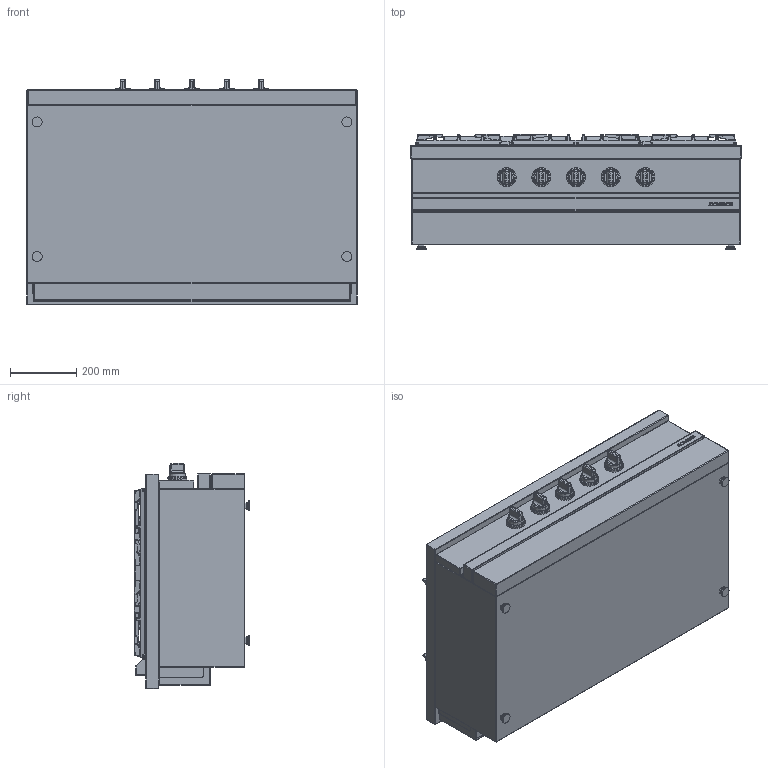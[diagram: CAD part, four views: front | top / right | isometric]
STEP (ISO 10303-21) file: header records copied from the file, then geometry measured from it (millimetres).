
FILE_DESCRIPTION((''),'2;1');
FILE_NAME('CSG1050_EXPORT_STEP_ASM','2017-11-22T',('r.avril'),(''),'PRO/ENGINEER BY PARAMETRIC TECHNOLOGY CORPORATION, 2014200','PRO/ENGINEER BY PARAMETRIC TECHNOLOGY CORPORATION, 2014200','');
FILE_SCHEMA(('AP203_CONFIGURATION_CONTROLLED_3D_DESIGN_OF_MECHANICAL_PARTS_AND_ASSEMBLIES_MIM_LF { 1 0 10303 403 2 1 2 }'));
Products named in the file (14): SNACKS_AMB_1000_EXPORT_STEP; TABLE_1000_CLASSIQUE; 3KW; 5KW; 1_5KW; 4KW; 6537025; 65149005; 90000488_ASM; 6537024; 90000487_ASM; TABLE_1000_CLASSIQUE_ASM; MANETTE_AMB_EXPORT_STEP; CSG1050_EXPORT_STEP_ASM
Assembly tree (27 placements, depth 4):
  CSG1050_EXPORT_STEP_ASM
    SNACKS_AMB_1000_EXPORT_STEP
    TABLE_1000_CLASSIQUE_ASM
      TABLE_1000_CLASSIQUE
      3KW  x2
      5KW
      1_5KW
      4KW
      90000488_ASM  x2
        6537025
        65149005
      90000487_ASM  x2
        6537024
        65149005
    MANETTE_AMB_EXPORT_STEP  x5
Bounding box: 1000 x 350 x 682.5 mm (x, y, z)
Volume: 73754659.1 mm3; surface area: 5661687.2 mm2
Topology: 40 solids, 58 shells, 3727 faces, 10323 edges, 7100 vertices
Faces by surface type: bspline 1148, cylinder 1026, plane 944, cone 327, sphere 122, torus 120, extrusion 40
Entity records: 99259 total; most frequent: CARTESIAN_POINT 36973, ORIENTED_EDGE 9146, DIRECTION 7920, EDGE_CURVE 4798, PRESENTATION_STYLE_ASSIGNMENT 4211, STYLED_ITEM 4211, CURVE_STYLE 4088, VERTEX_POINT 2987
